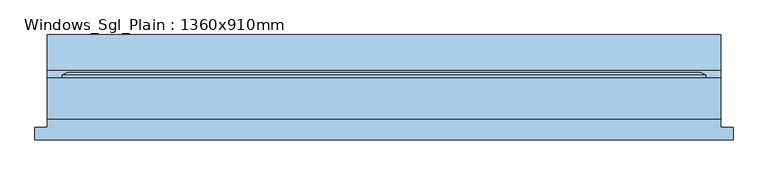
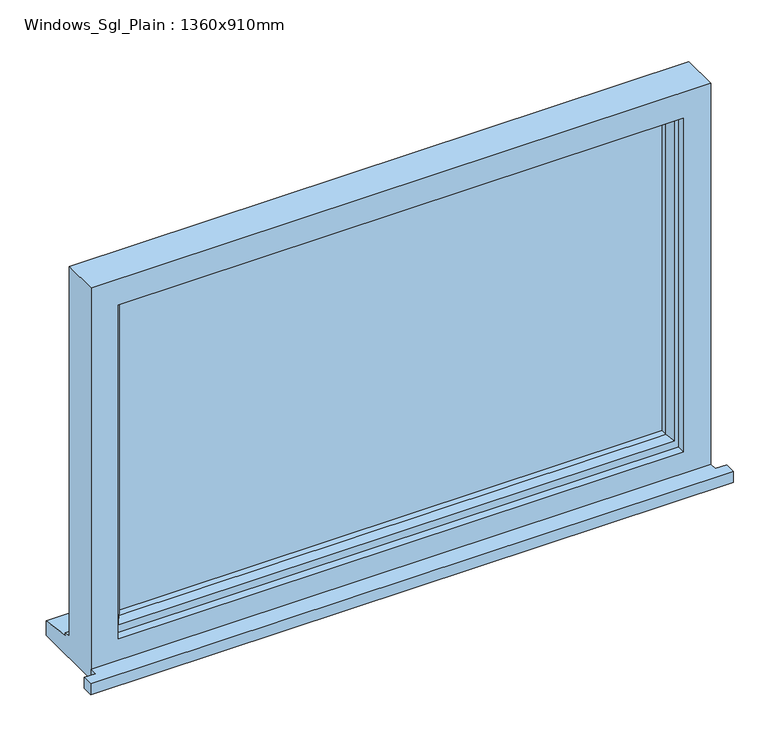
"""IFC4 building model written with IfcOpenShell, lengths in millimetres: window geometry, Windows_Sgl_Plain : 1360x910mm."""

from ifc_helpers import new_model, si_unit, frame, origin, place, context, project, spatial, polyline, outline, extrude, faceted_brep, source, transform, mapped, element, save


def windows_sgl_plain_1360x910mm_6e383a9a(model_context):
    return source(origin(), model_context, "Body", "SolidModel", [
        extrude(outline(polyline([(-705.0, -91.5434322), (-705.0, -66.5434322), (-680.0, -66.5434322), (-680.0, -49.5434322), (680.0, -49.5434322), (680.0, -66.5434322), (705.0, -66.5434322), (705.0, -91.5434322), (-705.0, -91.5434322)])), frame((0.0, 0.0, 1200.0), z_axis=(0.0, 0.0, 1.0), x_axis=(1.0, 0.0, 0.0)), (0.0, 0.0, 1.0), 25.0),
        faceted_brep([(-680.0, -49.5434322, 1200.0), (680.0, -49.5434322, 1200.0), (680.0, -49.5434322, 2110.0), (-680.0, -49.5434322, 2110.0), (-620.0, -49.5434322, 2050.0), (620.0, -49.5434322, 2050.0), (620.0, -49.5434322, 1275.0), (-620.0, -49.5434322, 1275.0), (-680.0, 33.4565678, 2110.0), (-680.0, 33.4565678, 1251.0), (-680.0, 48.4565678, 1249.68767), (-680.0, 48.4565678, 1244.7449676), (-680.0, 120.9565678, 1233.8088847), (-680.0, 120.9565678, 1200.0), (680.0, 33.4565678, 2110.0), (680.0, 33.4565678, 1251.0), (-640.0, 33.4565678, 2070.0), (-640.0, 33.4565678, 1263.0), (640.0, 33.4565678, 1263.0), (640.0, 33.4565678, 2070.0), (-640.0, -31.5434322, 2070.0), (-640.0, -31.5434322, 1263.0), (640.0, -31.5434322, 2070.0), (640.0, -31.5434322, 1263.0), (-620.0, -31.5434322, 2050.0), (-620.0, -31.5434322, 1275.0), (620.0, -31.5434322, 1275.0), (620.0, -31.5434322, 2050.0), (680.0, 120.9565678, 1200.0), (680.0, 120.9565678, 1233.8088847), (680.0, 48.4565678, 1244.7449676), (680.0, 48.4565678, 1249.68767)], [[[0, 1, 2, 3], [4, 5, 6, 7]], [[0, 3, 8, 9, 10, 11, 12, 13]], [[9, 8, 14, 15], [16, 17, 18, 19]], [[17, 16, 20, 21]], [[20, 22, 23, 21], [24, 25, 26, 27]], [[24, 4, 7, 25]], [[3, 2, 14, 8]], [[16, 19, 22, 20]], [[5, 4, 24, 27]], [[15, 14, 2, 1, 28, 29, 30, 31]], [[19, 18, 23, 22]], [[5, 27, 26, 6]], [[28, 1, 0, 13]], [[29, 28, 13, 12]], [[30, 29, 12, 11]], [[31, 30, 11, 10]], [[15, 31, 10, 9]], [[21, 23, 18, 17]], [[7, 6, 26, 25]]]),
        extrude(outline(polyline([(610.0, -2.5434322), (-610.0, -2.5434322), (-610.0, 21.4565678), (610.0, 21.4565678), (610.0, -2.5434322)])), frame((0.0, 0.0, 1293.0), z_axis=(0.0, 0.0, 1.0), x_axis=(1.0, 0.0, 0.0)), (0.0, 0.0, 1.0), 747.0),
        faceted_brep([(-650.0, 33.4565678, 2080.0), (-650.0, 39.2300705, 2080.0), (-650.0, 39.2300705, 1253.0), (-650.0, 33.4565678, 1253.0), (-640.0, -31.5434322, 2070.0), (-640.0, 33.4565678, 2070.0), (-640.0, 33.4565678, 1263.0), (-640.0, -31.5434322, 1263.0), (-600.0, -17.0505323, 2030.0), (-610.1480377, -31.5434322, 2040.1480377), (-610.1480377, -31.5434322, 1292.8519623), (-600.0, -17.0505323, 1303.0), (-600.0, -2.5434322, 2030.0), (-600.0, -2.5434322, 1303.0), (-610.0, 21.4565678, 2040.0), (-610.0, -2.5434322, 2040.0), (-610.0, -2.5434322, 1293.0), (-610.0, 21.4565678, 1293.0), (-600.0, 39.2300705, 2030.0), (-600.0, 21.4565678, 2030.0), (-600.0, 21.4565678, 1303.0), (-600.0, 39.2300705, 1303.0), (-617.4457548, 45.0035732, 2047.4457548), (-617.4457548, 45.0035732, 1285.5542452), (-639.2153903, 45.0035732, 2069.2153903), (-639.2153903, 45.0035732, 1263.7846097), (650.0, 39.2300705, 1253.0), (650.0, 33.4565678, 1253.0), (640.0, 33.4565678, 1263.0), (640.0, -31.5434322, 1263.0), (610.1480377, -31.5434322, 1292.8519623), (600.0, -17.0505323, 1303.0), (600.0, -2.5434322, 1303.0), (610.0, -2.5434322, 1293.0), (610.0, 21.4565678, 1293.0), (600.0, 21.4565678, 1303.0), (600.0, 39.2300705, 1303.0), (617.4457548, 45.0035732, 1285.5542452), (639.2153903, 45.0035732, 1263.7846097), (650.0, 39.2300705, 2080.0), (650.0, 33.4565678, 2080.0), (640.0, 33.4565678, 2070.0), (640.0, -31.5434322, 2070.0), (610.1480377, -31.5434322, 2040.1480377), (600.0, -17.0505323, 2030.0), (600.0, -2.5434322, 2030.0), (610.0, -2.5434322, 2040.0), (610.0, 21.4565678, 2040.0), (600.0, 21.4565678, 2030.0), (600.0, 39.2300705, 2030.0), (617.4457548, 45.0035732, 2047.4457548), (639.2153903, 45.0035732, 2069.2153903)], [[[0, 1, 2, 3]], [[4, 5, 6, 7]], [[8, 9, 10, 11]], [[12, 8, 11, 13]], [[14, 15, 16, 17]], [[18, 19, 20, 21]], [[22, 18, 21, 23]], [[1, 24, 25, 2]], [[3, 2, 26, 27]], [[7, 6, 28, 29]], [[11, 10, 30, 31]], [[13, 11, 31, 32]], [[17, 16, 33, 34]], [[21, 20, 35, 36]], [[23, 21, 36, 37]], [[2, 25, 38, 26]], [[27, 26, 39, 40]], [[29, 28, 41, 42]], [[31, 30, 43, 44]], [[32, 31, 44, 45]], [[34, 33, 46, 47]], [[36, 35, 48, 49]], [[37, 36, 49, 50]], [[26, 38, 51, 39]], [[40, 39, 1, 0]], [[3, 27, 40, 0], [5, 41, 28, 6]], [[42, 41, 5, 4]], [[7, 29, 42, 4], [9, 43, 30, 10]], [[44, 43, 9, 8]], [[45, 44, 8, 12]], [[15, 46, 33, 16], [13, 32, 45, 12]], [[47, 46, 15, 14]], [[17, 34, 47, 14], [19, 48, 35, 20]], [[49, 48, 19, 18]], [[50, 49, 18, 22]], [[24, 51, 38, 25], [23, 37, 50, 22]], [[39, 51, 24, 1]]]),
    ])


if __name__ == "__main__":
    model = new_model("IFC4")
    model_context = context("Model", 3, world=origin())
    ifc_project = project(units=[si_unit("LENGTHUNIT", "METRE", prefix="MILLI")], contexts=[model_context])
    site = spatial("IfcSite", under=ifc_project)
    building = spatial("IfcBuilding", under=site)
    placement = place(None, origin())
    windows_sgl_plain_1360x910mm_shape = windows_sgl_plain_1360x910mm_6e383a9a(model_context)
    element("IfcWindow", 1, ObjectType="Windows_Sgl_Plain : 1360x910mm", at=placement, inside=building, context=model_context, shape_type="MappedRepresentation", body=[
        mapped(windows_sgl_plain_1360x910mm_shape, transform((0.0, 0.0, 0.0), x_axis=(1.0, 0.0, 0.0), y_axis=(0.0, 1.0, 0.0), z_axis=(0.0, 0.0, 1.0))),
    ])
    save(model, "model.ifc")
